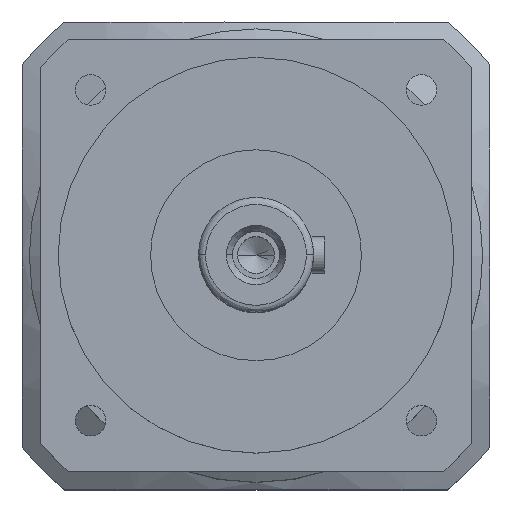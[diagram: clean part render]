
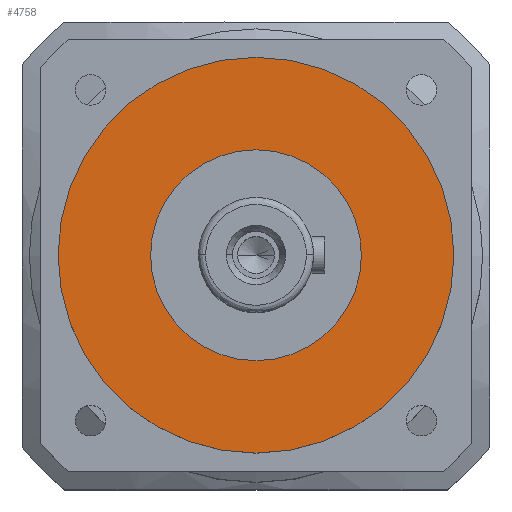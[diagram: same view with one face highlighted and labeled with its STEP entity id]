
A CAD part, top view. The second image highlights one B-rep face of the part: STEP entity #4758.
In plain terms, the highlighted planar face has unit normal (0, 0, 1).
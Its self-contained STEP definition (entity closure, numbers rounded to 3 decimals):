
#361 = EDGE_CURVE ( 'NONE', #23917, #41295, #22672, .T. ) ;
#1785 = EDGE_LOOP ( 'NONE', ( #37233, #6431 ) ) ;
#3768 = DIRECTION ( 'NONE',  ( -1., 0., 0. ) ) ;
#4758 = ADVANCED_FACE ( 'NONE', ( #22655, #14088 ), #23030, .F. ) ;
#4992 = DIRECTION ( 'NONE',  ( 0., 0., -1. ) ) ;
#5605 = CARTESIAN_POINT ( 'NONE',  ( 29.3, 0., 0. ) ) ;
#6431 = ORIENTED_EDGE ( 'NONE', *, *, #37321, .F. ) ;
#6643 = AXIS2_PLACEMENT_3D ( 'NONE', #6952, #29392, #32618 ) ;
#6952 = CARTESIAN_POINT ( 'NONE',  ( 0., 0., 0. ) ) ;
#7196 = CIRCLE ( 'NONE', #35089, 55. ) ;
#10452 = DIRECTION ( 'NONE',  ( 0., 0., 1. ) ) ;
#14088 = FACE_OUTER_BOUND ( 'NONE', #1785, .T. ) ;
#15197 = EDGE_LOOP ( 'NONE', ( #39892, #24897 ) ) ;
#16992 = DIRECTION ( 'NONE',  ( 0., 0., 1. ) ) ;
#19798 = CARTESIAN_POINT ( 'NONE',  ( 0., 0., 0. ) ) ;
#21057 = EDGE_CURVE ( 'NONE', #25999, #21249, #30618, .T. ) ;
#21249 = VERTEX_POINT ( 'NONE', #5605 ) ;
#22655 = FACE_BOUND ( 'NONE', #15197, .T. ) ;
#22672 = CIRCLE ( 'NONE', #6643, 55. ) ;
#23030 = PLANE ( 'NONE',  #41489 ) ;
#23917 = VERTEX_POINT ( 'NONE', #33238 ) ;
#24227 = CARTESIAN_POINT ( 'NONE',  ( 0., 0., 0. ) ) ;
#24897 = ORIENTED_EDGE ( 'NONE', *, *, #26703, .F. ) ;
#25591 = AXIS2_PLACEMENT_3D ( 'NONE', #29692, #10452, #32906 ) ;
#25999 = VERTEX_POINT ( 'NONE', #29683 ) ;
#26703 = EDGE_CURVE ( 'NONE', #21249, #25999, #35684, .T. ) ;
#27455 = DIRECTION ( 'NONE',  ( 1., 0., 0. ) ) ;
#29321 = DIRECTION ( 'NONE',  ( 0., 0., -1. ) ) ;
#29392 = DIRECTION ( 'NONE',  ( 0., 0., -1. ) ) ;
#29683 = CARTESIAN_POINT ( 'NONE',  ( -29.3, 0., 0. ) ) ;
#29692 = CARTESIAN_POINT ( 'NONE',  ( 0., 0., 0. ) ) ;
#30618 = CIRCLE ( 'NONE', #32907, 29.3 ) ;
#32618 = DIRECTION ( 'NONE',  ( 1., 0., 0. ) ) ;
#32906 = DIRECTION ( 'NONE',  ( -1., 0., 0. ) ) ;
#32907 = AXIS2_PLACEMENT_3D ( 'NONE', #36222, #16992, #39494 ) ;
#33238 = CARTESIAN_POINT ( 'NONE',  ( 55., 0., 0. ) ) ;
#35089 = AXIS2_PLACEMENT_3D ( 'NONE', #24227, #4992, #27455 ) ;
#35684 = CIRCLE ( 'NONE', #25591, 29.3 ) ;
#36222 = CARTESIAN_POINT ( 'NONE',  ( 0., 0., 0. ) ) ;
#36622 = CARTESIAN_POINT ( 'NONE',  ( -55., 0., 0. ) ) ;
#37233 = ORIENTED_EDGE ( 'NONE', *, *, #361, .F. ) ;
#37321 = EDGE_CURVE ( 'NONE', #41295, #23917, #7196, .T. ) ;
#39494 = DIRECTION ( 'NONE',  ( -1., 0., 0. ) ) ;
#39892 = ORIENTED_EDGE ( 'NONE', *, *, #21057, .F. ) ;
#41295 = VERTEX_POINT ( 'NONE', #36622 ) ;
#41489 = AXIS2_PLACEMENT_3D ( 'NONE', #19798, #29321, #3768 ) ;
